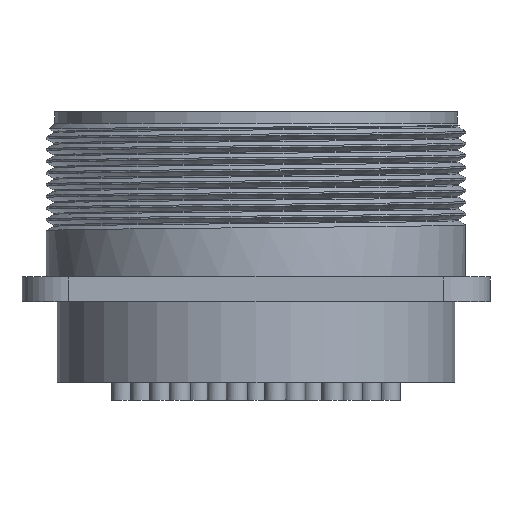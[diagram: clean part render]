
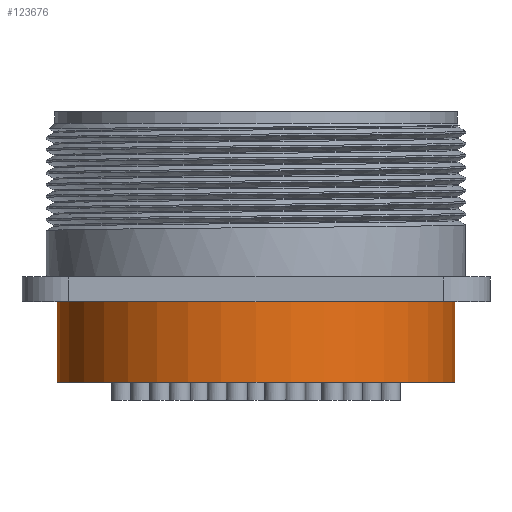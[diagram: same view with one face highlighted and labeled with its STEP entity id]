
A CAD part, front view. The second image highlights one B-rep face of the part: STEP entity #123676.
In plain terms, the highlighted cylindrical face has radius 26.985 mm (diameter 53.97 mm), a partial arc.
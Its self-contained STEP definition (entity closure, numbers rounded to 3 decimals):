
#413 = VERTEX_POINT ( 'NONE', #37987 ) ;
#6717 = EDGE_CURVE ( 'NONE', #64059, #104902, #71388, .T. ) ;
#11307 = EDGE_CURVE ( 'NONE', #75351, #30137, #22877, .T. ) ;
#11828 = ORIENTED_EDGE ( 'NONE', *, *, #6717, .T. ) ;
#13448 = CARTESIAN_POINT ( 'NONE',  ( -23.37, -13.493, -25.17 ) ) ;
#13529 = ORIENTED_EDGE ( 'NONE', *, *, #97411, .F. ) ;
#14361 = FACE_OUTER_BOUND ( 'NONE', #72145, .T. ) ;
#16998 = CARTESIAN_POINT ( 'NONE',  ( -23.37, -13.493, -25.77 ) ) ;
#22318 = LINE ( 'NONE', #126953, #75430 ) ;
#22578 = CARTESIAN_POINT ( 'NONE',  ( 0., 0., -25.77 ) ) ;
#22877 = CIRCLE ( 'NONE', #100285, 26.985 ) ;
#23320 = VECTOR ( 'NONE', #119450, 1000. ) ;
#25619 = VERTEX_POINT ( 'NONE', #88206 ) ;
#27774 = AXIS2_PLACEMENT_3D ( 'NONE', #62372, #141299, #73738 ) ;
#28076 = CARTESIAN_POINT ( 'NONE',  ( 26.985, 0., -36.69 ) ) ;
#29042 = CARTESIAN_POINT ( 'NONE',  ( 26.985, 0., 1.74 ) ) ;
#30137 = VERTEX_POINT ( 'NONE', #125530 ) ;
#32771 = AXIS2_PLACEMENT_3D ( 'NONE', #63103, #142010, #74452 ) ;
#33977 = DIRECTION ( 'NONE',  ( -1., 0., 0. ) ) ;
#37987 = CARTESIAN_POINT ( 'NONE',  ( -26.985, 0., -25.77 ) ) ;
#38313 = VERTEX_POINT ( 'NONE', #95860 ) ;
#38395 = CIRCLE ( 'NONE', #27774, 26.985 ) ;
#39365 = DIRECTION ( 'NONE',  ( 0., 0., 1. ) ) ;
#42078 = CARTESIAN_POINT ( 'NONE',  ( -26.985, 0., 1.74 ) ) ;
#43283 = ORIENTED_EDGE ( 'NONE', *, *, #101993, .F. ) ;
#53427 = DIRECTION ( 'NONE',  ( 0., 0., 1. ) ) ;
#53445 = LINE ( 'NONE', #29042, #23320 ) ;
#54478 = LINE ( 'NONE', #42078, #111027 ) ;
#59858 = DIRECTION ( 'NONE',  ( 0., 0., -1. ) ) ;
#62372 = CARTESIAN_POINT ( 'NONE',  ( 0., 0., -25.77 ) ) ;
#63103 = CARTESIAN_POINT ( 'NONE',  ( 0., 0., -36.69 ) ) ;
#64059 = VERTEX_POINT ( 'NONE', #141961 ) ;
#68576 = VERTEX_POINT ( 'NONE', #16998 ) ;
#68838 = CIRCLE ( 'NONE', #100681, 26.985 ) ;
#71388 = CIRCLE ( 'NONE', #32771, 26.985 ) ;
#72145 = EDGE_LOOP ( 'NONE', ( #13529, #11828, #105364, #146301, #43283, #103753, #100013, #139646 ) ) ;
#73738 = DIRECTION ( 'NONE',  ( -1., 0., 0. ) ) ;
#74452 = DIRECTION ( 'NONE',  ( 1., 0., 0. ) ) ;
#75351 = VERTEX_POINT ( 'NONE', #13448 ) ;
#75430 = VECTOR ( 'NONE', #59858, 1000. ) ;
#76775 = VECTOR ( 'NONE', #115905, 1000. ) ;
#81891 = CARTESIAN_POINT ( 'NONE',  ( -13.493, -23.37, -25.17 ) ) ;
#83195 = CARTESIAN_POINT ( 'NONE',  ( 0., 0., 1.74 ) ) ;
#88206 = CARTESIAN_POINT ( 'NONE',  ( 26.985, 0., -25.77 ) ) ;
#95860 = CARTESIAN_POINT ( 'NONE',  ( -13.493, -23.37, -25.77 ) ) ;
#97411 = EDGE_CURVE ( 'NONE', #64059, #413, #54478, .T. ) ;
#100013 = ORIENTED_EDGE ( 'NONE', *, *, #128645, .T. ) ;
#100285 = AXIS2_PLACEMENT_3D ( 'NONE', #107036, #39365, #118385 ) ;
#100681 = AXIS2_PLACEMENT_3D ( 'NONE', #22578, #101637, #33977 ) ;
#101004 = CYLINDRICAL_SURFACE ( 'NONE', #144781, 26.985 ) ;
#101637 = DIRECTION ( 'NONE',  ( 0., 0., 1. ) ) ;
#101993 = EDGE_CURVE ( 'NONE', #30137, #38313, #106773, .T. ) ;
#103753 = ORIENTED_EDGE ( 'NONE', *, *, #11307, .F. ) ;
#104902 = VERTEX_POINT ( 'NONE', #28076 ) ;
#105364 = ORIENTED_EDGE ( 'NONE', *, *, #132499, .T. ) ;
#105881 = DIRECTION ( 'NONE',  ( 0., 0., 1. ) ) ;
#106773 = LINE ( 'NONE', #81891, #76775 ) ;
#107036 = CARTESIAN_POINT ( 'NONE',  ( 0., 0., -25.17 ) ) ;
#111027 = VECTOR ( 'NONE', #53427, 1000. ) ;
#115905 = DIRECTION ( 'NONE',  ( 0., 0., -1. ) ) ;
#115975 = EDGE_CURVE ( 'NONE', #413, #68576, #68838, .T. ) ;
#118385 = DIRECTION ( 'NONE',  ( -1., 0., 0. ) ) ;
#119450 = DIRECTION ( 'NONE',  ( 0., 0., 1. ) ) ;
#123676 = ADVANCED_FACE ( 'NONE', ( #14361 ), #101004, .T. ) ;
#125530 = CARTESIAN_POINT ( 'NONE',  ( -13.493, -23.37, -25.17 ) ) ;
#126953 = CARTESIAN_POINT ( 'NONE',  ( -23.37, -13.493, -25.17 ) ) ;
#128120 = EDGE_CURVE ( 'NONE', #38313, #25619, #38395, .T. ) ;
#128515 = DIRECTION ( 'NONE',  ( 1., 0., 0. ) ) ;
#128645 = EDGE_CURVE ( 'NONE', #75351, #68576, #22318, .T. ) ;
#132499 = EDGE_CURVE ( 'NONE', #104902, #25619, #53445, .T. ) ;
#139646 = ORIENTED_EDGE ( 'NONE', *, *, #115975, .F. ) ;
#141299 = DIRECTION ( 'NONE',  ( 0., 0., 1. ) ) ;
#141961 = CARTESIAN_POINT ( 'NONE',  ( -26.985, 0., -36.69 ) ) ;
#142010 = DIRECTION ( 'NONE',  ( 0., 0., 1. ) ) ;
#144781 = AXIS2_PLACEMENT_3D ( 'NONE', #83195, #105881, #128515 ) ;
#146301 = ORIENTED_EDGE ( 'NONE', *, *, #128120, .F. ) ;
